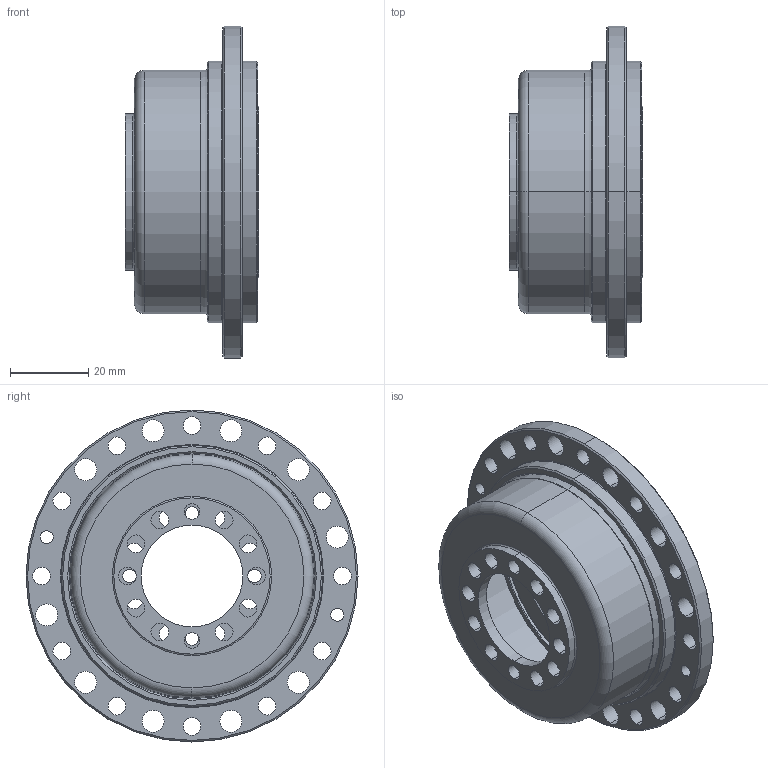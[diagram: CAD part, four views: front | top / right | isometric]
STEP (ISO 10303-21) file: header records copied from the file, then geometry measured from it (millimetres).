
FILE_DESCRIPTION (( 'STEP AP203' ), '1' );
FILE_NAME ('LCS-25-XXX-PL-I.STEP', '2017-06-24T07:53:32', ( 'Windows 蚚誧' ), ( 'Users' ), 'SwSTEP 2.0', 'SolidWorks 2013', '' );
FILE_SCHEMA (( 'CONFIG_CONTROL_DESIGN' ));
Length unit declared in the file: millimetre
Products named in the file (8): LCS-25-XXX-P01L; RZC-25悵厥殤; LCS-25-XXX-PL-I; 柔性轴承RZC-25; 轴径 45 （改）_GB_CONNECTING_PIECE_RINGS_CSB 45; LCS-25-XXX-P03L-I; LCS-25-XXX-P02L; RZC-25内外圈+钢球
Assembly tree (7 placements, depth 3):
  LCS-25-XXX-PL-I
    LCS-25-XXX-P03L-I
    柔性轴承RZC-25
      RZC-25内外圈+钢球
      RZC-25悵厥殤
    轴径 45 （改）_GB_CONNECTING_PIECE_RINGS_CSB 45
    LCS-25-XXX-P02L
    LCS-25-XXX-P01L
Bounding box: 34.3 x 85 x 85 mm (x, y, z)
Volume: 35753.1 mm3; surface area: 48292.8 mm2
Topology: 30 solids, 30 shells, 404 faces, 1095 edges, 715 vertices
Faces by surface type: cylinder 224, plane 72, sphere 46, torus 40, cone 22
Entity records: 13256 total; most frequent: DIRECTION 2492, CARTESIAN_POINT 2041, ORIENTED_EDGE 1960, AXIS2_PLACEMENT_3D 1097, EDGE_CURVE 980, CIRCLE 682, VERTEX_POINT 646, EDGE_LOOP 534
